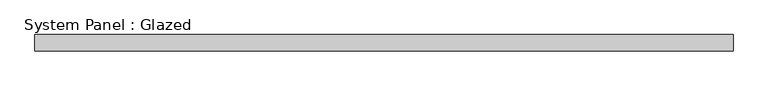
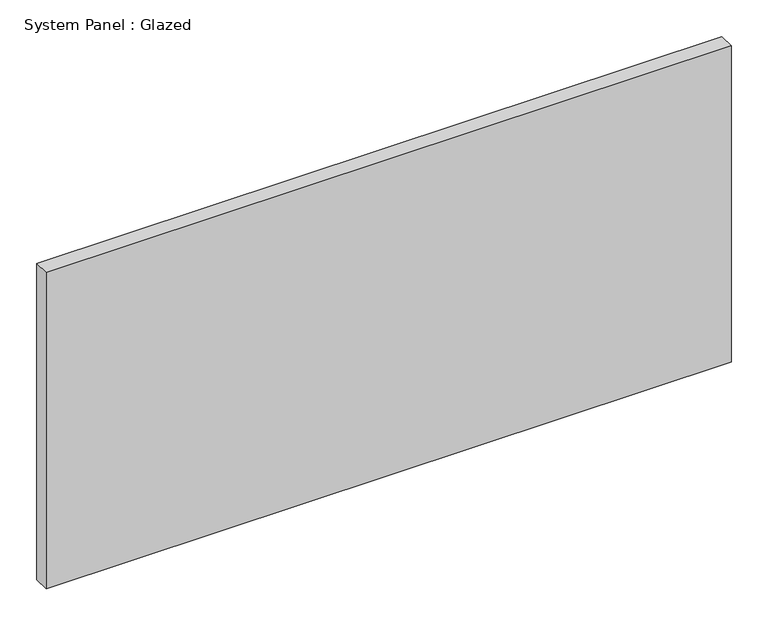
"""IFC4 building model written with IfcOpenShell, lengths in millimetres: plate geometry, System Panel : Glazed."""

from ifc_helpers import new_model, si_unit, origin, origin_with_axes, place, context, project, spatial, polyline, outline, extrude, source, transform, mapped, element, save


def system_panel_glazed_61021ea4(model_context):
    return source(origin(), model_context, "Body", "SweptSolid", [
        extrude(outline(polyline([(537.5000001, 24.5), (-537.5000001, 24.5), (-537.5000001, 49.5), (537.5000001, 49.5), (537.5000001, 24.5)])), origin_with_axes(), (0.0, 0.0, 1.0), 525.0),
    ])


if __name__ == "__main__":
    model = new_model("IFC4")
    model_context = context("Model", 3, world=origin())
    ifc_project = project(units=[si_unit("LENGTHUNIT", "METRE", prefix="MILLI")], contexts=[model_context])
    site = spatial("IfcSite", under=ifc_project)
    building = spatial("IfcBuilding", under=site)
    placement = place(None, origin())
    system_panel_glazed_shape = system_panel_glazed_61021ea4(model_context)
    element("IfcPlate", 1, ObjectType="System Panel : Glazed", at=placement, inside=building, context=model_context, shape_type="MappedRepresentation", body=[
        mapped(system_panel_glazed_shape, transform((0.0, 0.0, 0.0), x_axis=(1.0, 0.0, 0.0), y_axis=(0.0, 1.0, 0.0), z_axis=(0.0, 0.0, 1.0))),
    ])
    save(model, "model.ifc")
